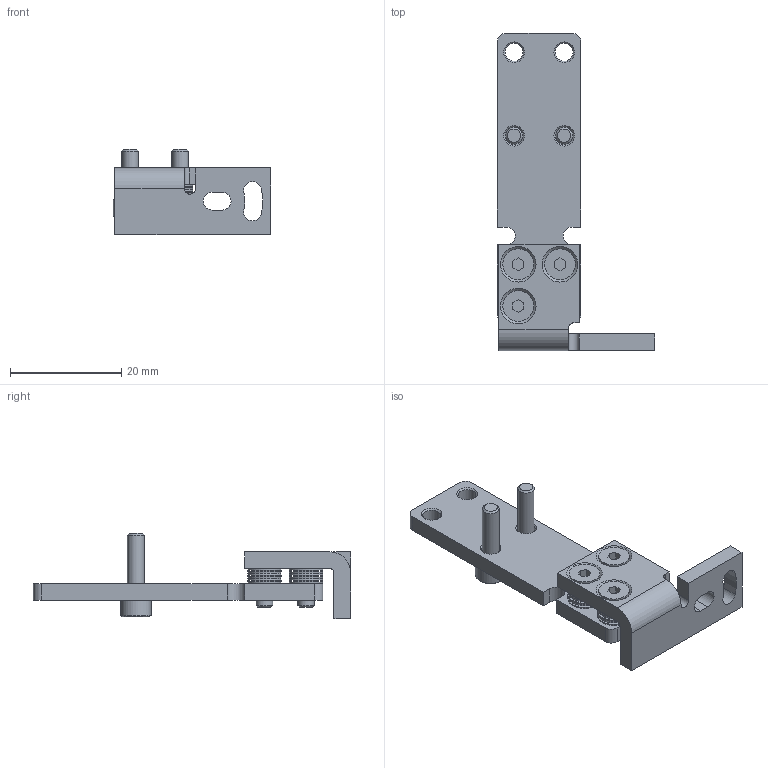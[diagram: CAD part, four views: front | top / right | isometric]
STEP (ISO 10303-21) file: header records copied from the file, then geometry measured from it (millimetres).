
FILE_DESCRIPTION( ( 'STEP AP203' ), '1' );
FILE_NAME( '//expscmdclustefs.cadenas.external/client_exchange/iodir/jobs/output/wkb80973289_no0/STEP/E21239_2_03.stp', ' ', ( ' ' ), ( ' ' ), 'PSStep 15.0.47', 'PARTsolutions', ' ' );
FILE_SCHEMA( ( 'CONFIG_CONTROL_DESIGN' ) );
Length unit declared in the file: millimetre
Products named in the file (5): E21239; _E21239_part1; _E21239_part2; _E21239_part3; _E21239_part4
Assembly tree (7 placements, depth 2):
  E21239
    _E21239_part1
    _E21239_part2
    _E21239_part3  x2
    _E21239_part4  x3
Bounding box: 28.25 x 57 x 15.3 mm (x, y, z)
Volume: 4193 mm3; surface area: 4986.7 mm2
Topology: 7 solids, 7 shells, 176 faces, 391 edges, 239 vertices
Faces by surface type: plane 77, cone 60, cylinder 39
Full cylindrical faces by diameter (mm): 2.459 x3, 3 x8, 3.2 x4, 5.5 x2, 5.54 x3, 6 x3
Entity records: 3659 total; most frequent: DIRECTION 645, CARTESIAN_POINT 569, ORIENTED_EDGE 476, AXIS2_PLACEMENT_3D 263, EDGE_CURVE 238, EDGE_LOOP 237, VERTEX_POINT 187, FACE_OUTER_BOUND 153
